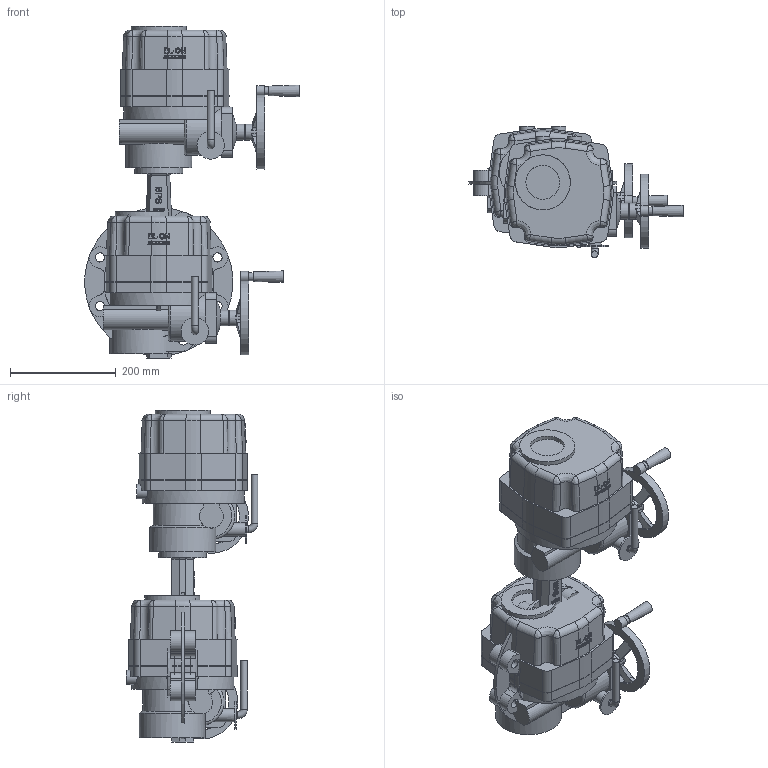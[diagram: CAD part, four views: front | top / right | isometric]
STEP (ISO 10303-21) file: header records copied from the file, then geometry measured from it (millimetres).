
FILE_DESCRIPTION( ( 'Unknown' ), '1' );
FILE_NAME( 'R:/ECCUA/ROOTSI BPS 3D vidinad/Poordklapid Lug type/Butterfly valve(lug) with electric actuator BPS/STEP formaat/BPS 2313150E(R) butterfly valve DN150.stp', 'Unknown', ( 'Unknown' ), ( 'Unknown' ), 'PSStep 10.1', 'Unknown', ' ' );
FILE_SCHEMA( ( 'AUTOMOTIVE_DESIGN { 1 0 10303 214 1 1 1 1 }' ) );
Length unit declared in the file: millimetre
Products named in the file (3): Assem1; BPS 8005150 electric actuator DN150; Butterfly valve lug type DN150 PN10-16 BPS
Bounding box: 404.57 x 249 x 627 mm (x, y, z)
Volume: 19316435 mm3; surface area: 1250514.1 mm2
Topology: 4 solids, 6 shells, 1174 faces, 3062 edges, 1974 vertices
Faces by surface type: plane 458, cylinder 290, bspline 188, cone 116, extrusion 98, torus 24
Full cylindrical faces by diameter (mm): 9 x8, 13 x4, 15 x2, 17.294 x16, 18 x2, 22 x2, 25 x2, 27 x4, 30 x4, 52 x2, 64 x2, 90 x2, 104 x2, 106 x2, 112 x2, 125 x2, 150 x2, 187 x4, 193 x2, 207 x4
Entity records: 33494 total; most frequent: CARTESIAN_POINT 15663, ORIENTED_EDGE 2902, DIRECTION 2270, EDGE_CURVE 1451, VERTEX_POINT 963, AXIS2_PLACEMENT_3D 837, EDGE_LOOP 714, FACE_OUTER_BOUND 629
